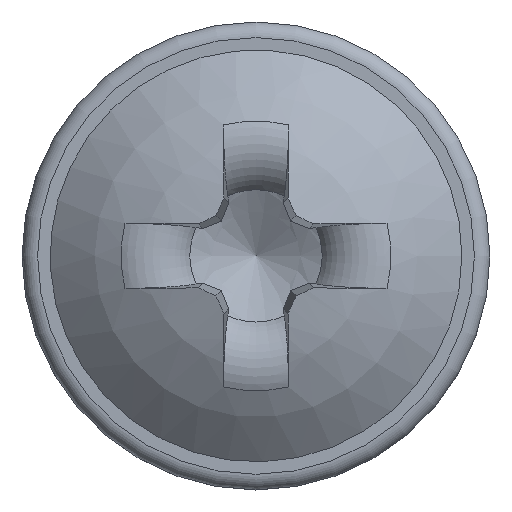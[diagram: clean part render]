
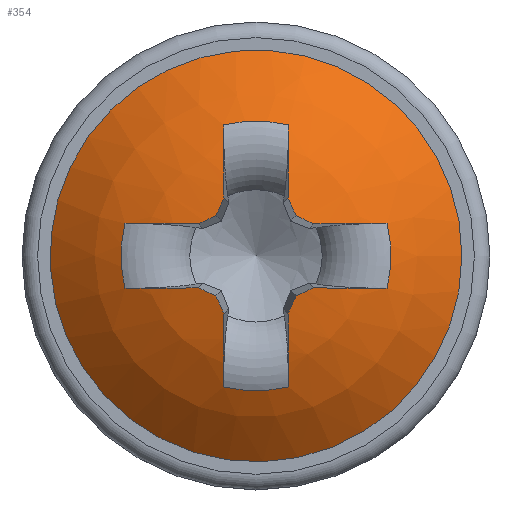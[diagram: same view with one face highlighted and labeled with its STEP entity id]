
A CAD part, top view. The second image highlights one B-rep face of the part: STEP entity #354.
In plain terms, the highlighted spherical face has radius 2.85 mm.
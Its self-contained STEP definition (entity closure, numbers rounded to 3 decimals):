
#256=SPHERICAL_SURFACE('',#1646,2.85);
#354=ADVANCED_FACE('',(#590,#591),#256,.T.);
#590=FACE_BOUND('',#612,.T.);
#591=FACE_BOUND('',#613,.T.);
#612=EDGE_LOOP('',(#760));
#613=EDGE_LOOP('',(#761,#762,#763,#764,#765,#766,#767,#768,#769,#770,#771,
#772,#773,#774,#775,#776,#777,#778,#779,#780));
#760=ORIENTED_EDGE('',*,*,#1387,.T.);
#761=ORIENTED_EDGE('',*,*,#1388,.F.);
#762=ORIENTED_EDGE('',*,*,#1389,.T.);
#763=ORIENTED_EDGE('',*,*,#1390,.F.);
#764=ORIENTED_EDGE('',*,*,#1391,.F.);
#765=ORIENTED_EDGE('',*,*,#1392,.F.);
#766=ORIENTED_EDGE('',*,*,#1393,.F.);
#767=ORIENTED_EDGE('',*,*,#1394,.T.);
#768=ORIENTED_EDGE('',*,*,#1395,.F.);
#769=ORIENTED_EDGE('',*,*,#1396,.F.);
#770=ORIENTED_EDGE('',*,*,#1397,.F.);
#771=ORIENTED_EDGE('',*,*,#1398,.F.);
#772=ORIENTED_EDGE('',*,*,#1399,.T.);
#773=ORIENTED_EDGE('',*,*,#1400,.F.);
#774=ORIENTED_EDGE('',*,*,#1401,.F.);
#775=ORIENTED_EDGE('',*,*,#1402,.F.);
#776=ORIENTED_EDGE('',*,*,#1403,.F.);
#777=ORIENTED_EDGE('',*,*,#1404,.T.);
#778=ORIENTED_EDGE('',*,*,#1405,.F.);
#779=ORIENTED_EDGE('',*,*,#1406,.F.);
#780=ORIENTED_EDGE('',*,*,#1407,.F.);
#1232=VERTEX_POINT('',#3617);
#1233=VERTEX_POINT('',#3619);
#1234=VERTEX_POINT('',#3620);
#1235=VERTEX_POINT('',#3622);
#1236=VERTEX_POINT('',#3624);
#1237=VERTEX_POINT('',#3626);
#1238=VERTEX_POINT('',#3628);
#1239=VERTEX_POINT('',#3630);
#1240=VERTEX_POINT('',#3632);
#1241=VERTEX_POINT('',#3634);
#1242=VERTEX_POINT('',#3636);
#1243=VERTEX_POINT('',#3638);
#1244=VERTEX_POINT('',#3640);
#1245=VERTEX_POINT('',#3642);
#1246=VERTEX_POINT('',#3644);
#1247=VERTEX_POINT('',#3646);
#1248=VERTEX_POINT('',#3648);
#1249=VERTEX_POINT('',#3650);
#1250=VERTEX_POINT('',#3652);
#1251=VERTEX_POINT('',#3654);
#1252=VERTEX_POINT('',#3656);
#1387=EDGE_CURVE('',#1232,#1232,#1585,.T.);
#1388=EDGE_CURVE('',#1233,#1234,#1586,.T.);
#1389=EDGE_CURVE('',#1233,#1235,#1587,.T.);
#1390=EDGE_CURVE('',#1236,#1235,#1588,.T.);
#1391=EDGE_CURVE('',#1237,#1236,#1589,.T.);
#1392=EDGE_CURVE('',#1238,#1237,#1590,.T.);
#1393=EDGE_CURVE('',#1239,#1238,#1591,.T.);
#1394=EDGE_CURVE('',#1239,#1240,#1592,.T.);
#1395=EDGE_CURVE('',#1241,#1240,#1593,.T.);
#1396=EDGE_CURVE('',#1242,#1241,#1594,.T.);
#1397=EDGE_CURVE('',#1243,#1242,#1595,.T.);
#1398=EDGE_CURVE('',#1244,#1243,#1596,.T.);
#1399=EDGE_CURVE('',#1244,#1245,#1597,.T.);
#1400=EDGE_CURVE('',#1246,#1245,#1598,.T.);
#1401=EDGE_CURVE('',#1247,#1246,#1599,.T.);
#1402=EDGE_CURVE('',#1248,#1247,#1600,.T.);
#1403=EDGE_CURVE('',#1249,#1248,#1601,.T.);
#1404=EDGE_CURVE('',#1249,#1250,#1602,.T.);
#1405=EDGE_CURVE('',#1251,#1250,#1603,.T.);
#1406=EDGE_CURVE('',#1252,#1251,#1604,.T.);
#1407=EDGE_CURVE('',#1234,#1252,#1605,.T.);
#1585=CIRCLE('',#1625,1.98);
#1586=CIRCLE('',#1626,2.85);
#1587=CIRCLE('',#1627,1.298);
#1588=CIRCLE('',#1628,2.85);
#1589=CIRCLE('',#1629,2.846);
#1590=CIRCLE('',#1630,2.846);
#1591=CIRCLE('',#1631,2.85);
#1592=CIRCLE('',#1632,1.298);
#1593=CIRCLE('',#1633,2.85);
#1594=CIRCLE('',#1634,2.846);
#1595=CIRCLE('',#1635,2.846);
#1596=CIRCLE('',#1636,2.85);
#1597=CIRCLE('',#1637,1.298);
#1598=CIRCLE('',#1638,2.85);
#1599=CIRCLE('',#1639,2.846);
#1600=CIRCLE('',#1640,2.846);
#1601=CIRCLE('',#1641,2.85);
#1602=CIRCLE('',#1642,1.298);
#1603=CIRCLE('',#1643,2.85);
#1604=CIRCLE('',#1644,2.846);
#1605=CIRCLE('',#1645,2.846);
#1625=AXIS2_PLACEMENT_3D('',#3616,#1705,#1706);
#1626=AXIS2_PLACEMENT_3D('',#3618,#1707,#1708);
#1627=AXIS2_PLACEMENT_3D('',#3621,#1709,#1710);
#1628=AXIS2_PLACEMENT_3D('',#3623,#1711,#1712);
#1629=AXIS2_PLACEMENT_3D('',#3625,#1713,#1714);
#1630=AXIS2_PLACEMENT_3D('',#3627,#1715,#1716);
#1631=AXIS2_PLACEMENT_3D('',#3629,#1717,#1718);
#1632=AXIS2_PLACEMENT_3D('',#3631,#1719,#1720);
#1633=AXIS2_PLACEMENT_3D('',#3633,#1721,#1722);
#1634=AXIS2_PLACEMENT_3D('',#3635,#1723,#1724);
#1635=AXIS2_PLACEMENT_3D('',#3637,#1725,#1726);
#1636=AXIS2_PLACEMENT_3D('',#3639,#1727,#1728);
#1637=AXIS2_PLACEMENT_3D('',#3641,#1729,#1730);
#1638=AXIS2_PLACEMENT_3D('',#3643,#1731,#1732);
#1639=AXIS2_PLACEMENT_3D('',#3645,#1733,#1734);
#1640=AXIS2_PLACEMENT_3D('',#3647,#1735,#1736);
#1641=AXIS2_PLACEMENT_3D('',#3649,#1737,#1738);
#1642=AXIS2_PLACEMENT_3D('',#3651,#1739,#1740);
#1643=AXIS2_PLACEMENT_3D('',#3653,#1741,#1742);
#1644=AXIS2_PLACEMENT_3D('',#3655,#1743,#1744);
#1645=AXIS2_PLACEMENT_3D('',#3657,#1745,#1746);
#1646=AXIS2_PLACEMENT_3D('',#3658,#1747,#1748);
#1705=DIRECTION('',(0.,0.,1.));
#1706=DIRECTION('',(1.,0.,0.));
#1707=DIRECTION('',(-0.996,-0.035,0.087));
#1708=DIRECTION('',(0.087,0.,0.996));
#1709=DIRECTION('',(0.,0.,-1.));
#1710=DIRECTION('',(-1.,0.,0.));
#1711=DIRECTION('',(0.996,-0.035,0.087));
#1712=DIRECTION('',(0.087,0.,-0.996));
#1713=DIRECTION('',(0.907,0.404,0.122));
#1714=DIRECTION('',(-0.407,0.914,0.));
#1715=DIRECTION('',(0.404,0.907,0.122));
#1716=DIRECTION('',(-0.914,0.407,0.));
#1717=DIRECTION('',(-0.035,0.996,0.087));
#1718=DIRECTION('',(0.,-0.087,0.996));
#1719=DIRECTION('',(0.,0.,-1.));
#1720=DIRECTION('',(-1.,0.,0.));
#1721=DIRECTION('',(-0.035,-0.996,0.087));
#1722=DIRECTION('',(0.,-0.087,-0.996));
#1723=DIRECTION('',(0.404,-0.907,0.122));
#1724=DIRECTION('',(0.914,0.407,0.));
#1725=DIRECTION('',(0.907,-0.404,0.122));
#1726=DIRECTION('',(0.407,0.914,0.));
#1727=DIRECTION('',(0.996,0.035,0.087));
#1728=DIRECTION('',(0.087,0.,-0.996));
#1729=DIRECTION('',(0.,0.,-1.));
#1730=DIRECTION('',(-1.,0.,0.));
#1731=DIRECTION('',(-0.996,0.035,0.087));
#1732=DIRECTION('',(0.087,0.,0.996));
#1733=DIRECTION('',(-0.907,-0.404,0.122));
#1734=DIRECTION('',(0.407,-0.914,0.));
#1735=DIRECTION('',(-0.404,-0.907,0.122));
#1736=DIRECTION('',(0.914,-0.407,0.));
#1737=DIRECTION('',(0.035,-0.996,0.087));
#1738=DIRECTION('',(0.,-0.087,-0.996));
#1739=DIRECTION('',(0.,0.,-1.));
#1740=DIRECTION('',(-1.,0.,0.));
#1741=DIRECTION('',(0.035,0.996,0.087));
#1742=DIRECTION('',(0.,-0.087,0.996));
#1743=DIRECTION('',(-0.404,0.907,0.122));
#1744=DIRECTION('',(-0.914,-0.407,0.));
#1745=DIRECTION('',(-0.907,0.404,0.122));
#1746=DIRECTION('',(-0.407,-0.914,0.));
#1747=DIRECTION('',(0.,0.,1.));
#1748=DIRECTION('',(0.,1.,0.));
#3616=CARTESIAN_POINT('',(0.,0.,0.6));
#3617=CARTESIAN_POINT('',(1.98,0.,0.6));
#3618=CARTESIAN_POINT('',(0.045,0.002,-1.454));
#3619=CARTESIAN_POINT('',(0.311,-1.26,1.087));
#3620=CARTESIAN_POINT('',(0.308,-0.555,1.329));
#3621=CARTESIAN_POINT('',(0.,0.,1.087));
#3622=CARTESIAN_POINT('',(-0.311,-1.26,1.087));
#3623=CARTESIAN_POINT('',(-0.045,0.002,-1.454));
#3624=CARTESIAN_POINT('',(-0.308,-0.555,1.329));
#3625=CARTESIAN_POINT('',(-0.149,-0.066,-1.47));
#3626=CARTESIAN_POINT('',(-0.385,-0.385,1.347));
#3627=CARTESIAN_POINT('',(-0.066,-0.149,-1.47));
#3628=CARTESIAN_POINT('',(-0.555,-0.308,1.329));
#3629=CARTESIAN_POINT('',(0.002,-0.045,-1.454));
#3630=CARTESIAN_POINT('',(-1.26,-0.311,1.087));
#3631=CARTESIAN_POINT('',(0.,0.,1.087));
#3632=CARTESIAN_POINT('',(-1.26,0.311,1.087));
#3633=CARTESIAN_POINT('',(0.002,0.045,-1.454));
#3634=CARTESIAN_POINT('',(-0.555,0.308,1.329));
#3635=CARTESIAN_POINT('',(-0.066,0.149,-1.47));
#3636=CARTESIAN_POINT('',(-0.385,0.385,1.347));
#3637=CARTESIAN_POINT('',(-0.149,0.066,-1.47));
#3638=CARTESIAN_POINT('',(-0.308,0.555,1.329));
#3639=CARTESIAN_POINT('',(-0.045,-0.002,-1.454));
#3640=CARTESIAN_POINT('',(-0.311,1.26,1.087));
#3641=CARTESIAN_POINT('',(0.,0.,1.087));
#3642=CARTESIAN_POINT('',(0.311,1.26,1.087));
#3643=CARTESIAN_POINT('',(0.045,-0.002,-1.454));
#3644=CARTESIAN_POINT('',(0.308,0.555,1.329));
#3645=CARTESIAN_POINT('',(0.149,0.066,-1.47));
#3646=CARTESIAN_POINT('',(0.385,0.385,1.347));
#3647=CARTESIAN_POINT('',(0.066,0.149,-1.47));
#3648=CARTESIAN_POINT('',(0.555,0.308,1.329));
#3649=CARTESIAN_POINT('',(-0.002,0.045,-1.454));
#3650=CARTESIAN_POINT('',(1.26,0.311,1.087));
#3651=CARTESIAN_POINT('',(0.,0.,1.087));
#3652=CARTESIAN_POINT('',(1.26,-0.311,1.087));
#3653=CARTESIAN_POINT('',(-0.002,-0.045,-1.454));
#3654=CARTESIAN_POINT('',(0.555,-0.308,1.329));
#3655=CARTESIAN_POINT('',(0.066,-0.149,-1.47));
#3656=CARTESIAN_POINT('',(0.385,-0.385,1.347));
#3657=CARTESIAN_POINT('',(0.149,-0.066,-1.47));
#3658=CARTESIAN_POINT('',(0.,0.,-1.45));
